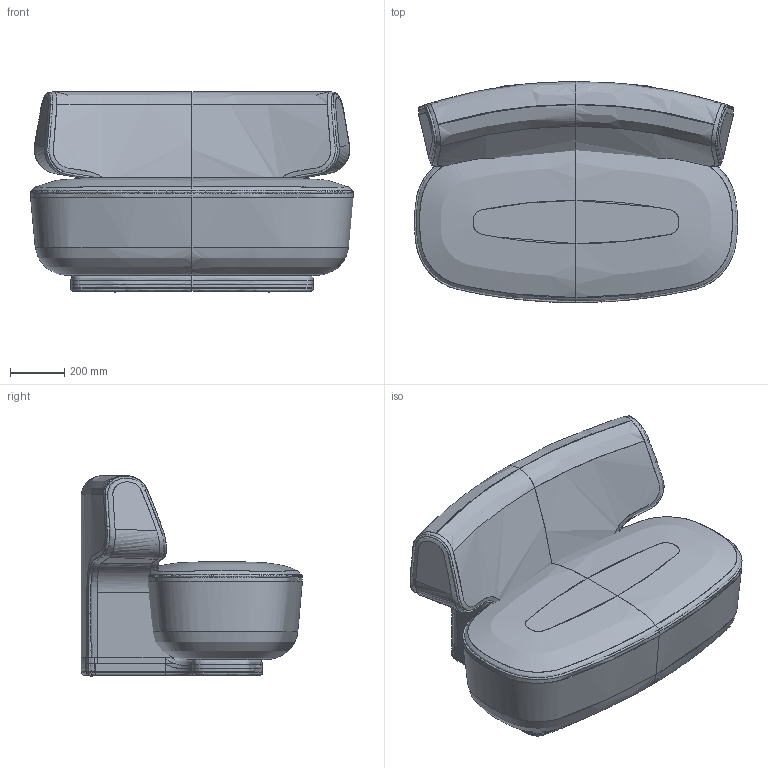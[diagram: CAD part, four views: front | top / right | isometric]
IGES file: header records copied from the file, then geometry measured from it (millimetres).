
Global section: file name: C:\Users\market02\Desktop\RYAN\litho plan\fait\PierreFrey_Delvigne_Litho_Banquette\PierreFrey_Delvigne_Litho_Banquette.igs; native system: Rhinoceros ( Dec 14 2021 ); preprocessor: Trout Lake IGES 012 Dec 14 2021; date: 220725.091812; units: millimetre
Bounding box: 1196.89 x 819.22 x 744 mm (x, y, z)
Surface area: 5580663 mm2 (no closed solid volume)
Topology: 0 solids, 0 shells, 113 faces, 2831 edges, 2810 vertices
Faces by surface type: bspline 113
